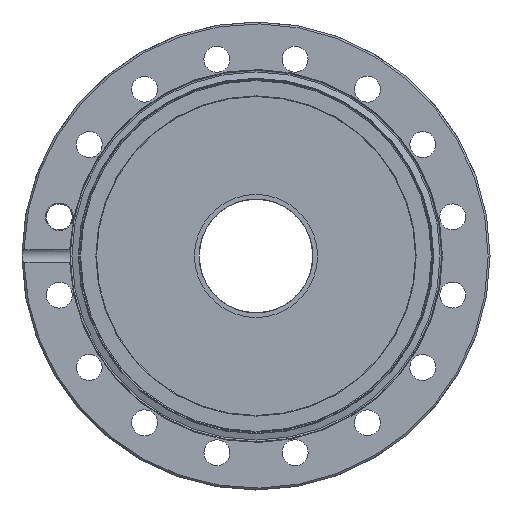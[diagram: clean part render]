
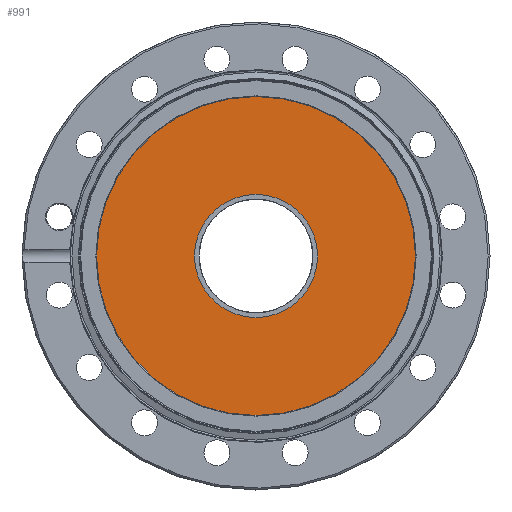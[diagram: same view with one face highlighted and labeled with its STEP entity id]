
A CAD part, left-side view. The second image highlights one B-rep face of the part: STEP entity #991.
In plain terms, the highlighted planar face has unit normal (-1, 0, 0).
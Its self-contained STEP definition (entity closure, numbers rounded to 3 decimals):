
#641=CARTESIAN_POINT('',(-73.6,20.,0.));
#642=VERTEX_POINT('',#641);
#643=CARTESIAN_POINT('',(-73.6,0.,0.));
#644=DIRECTION('',(1.0,0.0,0.0));
#645=DIRECTION('',(0.0,1.0,0.0));
#646=AXIS2_PLACEMENT_3D('',#643,#644,#645);
#647=CIRCLE('',#646,20.);
#648=EDGE_CURVE('',#642,#642,#647,.T.);
#965=CARTESIAN_POINT('',(-73.6,51.8,0.));
#966=VERTEX_POINT('',#965);
#967=CARTESIAN_POINT('',(-73.6,0.,0.));
#968=DIRECTION('',(1.0,0.0,0.0));
#969=DIRECTION('',(0.0,1.0,0.0));
#970=AXIS2_PLACEMENT_3D('',#967,#968,#969);
#971=CIRCLE('',#970,51.8);
#972=EDGE_CURVE('',#966,#966,#971,.T.);
#980=CARTESIAN_POINT('',(-73.6,25.9,0.));
#981=DIRECTION('',(1.0,0.0,0.0));
#982=DIRECTION('',(0.0,0.0,-1.0));
#983=AXIS2_PLACEMENT_3D('',#980,#981,#982);
#984=PLANE('',#983);
#985=ORIENTED_EDGE('',*,*,#972,.F.);
#986=EDGE_LOOP('',(#985));
#987=FACE_OUTER_BOUND('',#986,.T.);
#988=ORIENTED_EDGE('',*,*,#648,.T.);
#989=EDGE_LOOP('',(#988));
#990=FACE_BOUND('',#989,.T.);
#991=ADVANCED_FACE('',(#987,#990),#984,.F.);
